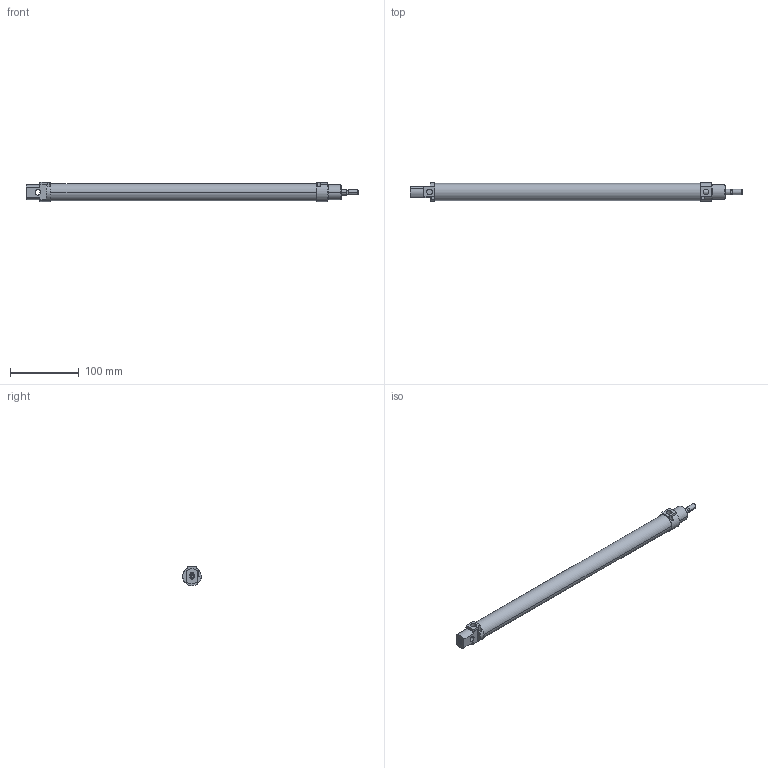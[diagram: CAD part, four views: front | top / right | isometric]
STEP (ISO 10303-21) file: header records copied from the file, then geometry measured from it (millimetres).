
FILE_DESCRIPTION(('CATIA V5 STEP Exchange'),'2;1');
FILE_NAME('D:\stp file for catalog\PSN\20\PSN-20-08-350.stp','2018-04-28T10:12:55+00:00',('none'),('none'),'CATIA Version 5-6 Release 2016','CATIA V5 STEP AP203','none');
FILE_SCHEMA(('CONFIG_CONTROL_DESIGN'));
Length unit declared in the file: millimetre
Products named in the file (1): PSN-20-08-350-00
Assembly tree (2 placements, depth 2):
  PSN-20-08-350-00
    #57
    #5057
Bounding box: 482.25 x 26.99 x 28 mm (x, y, z)
Volume: 123072.6 mm3; surface area: 78667.2 mm2
Topology: 2 solids, 3 shells, 206 faces, 515 edges, 338 vertices
Faces by surface type: plane 140, cylinder 60, cone 6
Entity records: 5780 total; most frequent: CARTESIAN_POINT 1106, ORIENTED_EDGE 1030, DIRECTION 763, EDGE_CURVE 515, VECTOR 361, LINE 361, VERTEX_POINT 338, AXIS2_PLACEMENT_3D 273
